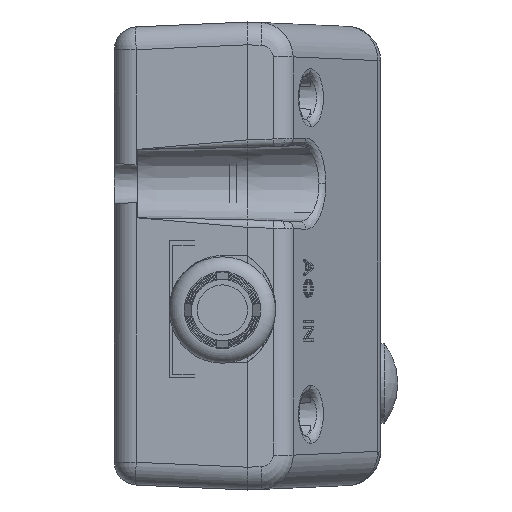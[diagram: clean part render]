
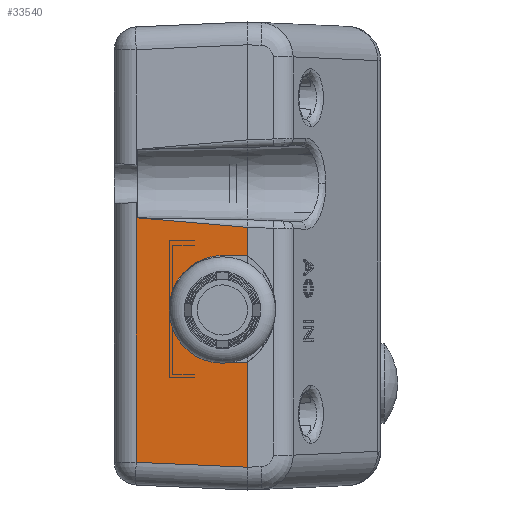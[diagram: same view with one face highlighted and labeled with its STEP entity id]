
A CAD part, left-side view. The second image highlights one B-rep face of the part: STEP entity #33540.
In plain terms, the highlighted planar face has unit normal (-0.999, 0.044, 0) as drawn and (0.999, 0.044, 0) by its records, which use the part's own axes.
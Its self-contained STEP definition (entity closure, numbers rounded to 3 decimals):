
#7997=CARTESIAN_POINT('',(90.264,0.,13.948));
#7998=VERTEX_POINT('',#7997);
#8006=CARTESIAN_POINT('',(90.264,0.,27.767));
#8007=VERTEX_POINT('',#8006);
#8008=CARTESIAN_POINT('',(90.264,0.,13.948));
#8009=DIRECTION('',(0.0,0.0,1.0));
#8010=VECTOR('',#8009,13.819);
#8011=LINE('',#8008,#8010);
#8012=EDGE_CURVE('',#7998,#8007,#8011,.T.);
#8098=CARTESIAN_POINT('',(90.264,-0.001,-0.052));
#8099=VERTEX_POINT('',#8098);
#8209=CARTESIAN_POINT('',(90.264,0.,-3.764));
#8210=VERTEX_POINT('',#8209);
#12448=CARTESIAN_POINT('',(89.625,14.631,27.129));
#12449=VERTEX_POINT('',#12448);
#16128=CARTESIAN_POINT('',(90.264,0.,-0.052));
#16129=DIRECTION('',(0.0,0.0,-1.0));
#16130=VECTOR('',#16129,3.712);
#16131=LINE('',#16128,#16130);
#16132=EDGE_CURVE('',#8099,#8210,#16131,.T.);
#27965=CARTESIAN_POINT('',(90.12,3.3,-0.052));
#27966=VERTEX_POINT('',#27965);
#27967=CARTESIAN_POINT('',(90.12,3.3,-0.052));
#27968=DIRECTION('',(0.044,-0.999,0.));
#27969=VECTOR('',#27968,3.304);
#27970=LINE('',#27967,#27969);
#27971=EDGE_CURVE('',#27966,#8099,#27970,.T.);
#28820=CARTESIAN_POINT('',(90.12,3.3,13.948));
#28821=VERTEX_POINT('',#28820);
#28822=CARTESIAN_POINT('',(90.12,3.3,6.948));
#28823=DIRECTION('',(-0.999,-0.044,0.));
#28824=DIRECTION('',(0.044,-0.999,0.0));
#28825=AXIS2_PLACEMENT_3D('',#28822,#28823,#28824);
#28826=ELLIPSE('',#28825,7.007,7.);
#28827=EDGE_CURVE('',#28821,#27966,#28826,.T.);
#31449=CARTESIAN_POINT('',(89.625,14.631,-7.011));
#31450=VERTEX_POINT('',#31449);
#31451=CARTESIAN_POINT('',(89.625,14.631,-7.011));
#31452=DIRECTION('',(0.0,0.0,1.0));
#31453=VECTOR('',#31452,34.14);
#31454=LINE('',#31451,#31453);
#31455=EDGE_CURVE('',#31450,#12449,#31454,.T.);
#31481=CARTESIAN_POINT('',(89.631,14.5,-7.017));
#31482=VERTEX_POINT('',#31481);
#31483=CARTESIAN_POINT('',(89.631,14.5,-7.017));
#31484=DIRECTION('',(-0.044,0.998,0.044));
#31485=VECTOR('',#31484,0.131);
#31486=LINE('',#31483,#31485);
#31487=EDGE_CURVE('',#31482,#31450,#31486,.T.);
#31653=CARTESIAN_POINT('',(89.631,14.5,-5.017));
#31654=VERTEX_POINT('',#31653);
#31661=CARTESIAN_POINT('',(90.264,0.,-3.762));
#31662=DIRECTION('',(-0.043,0.995,-0.086));
#31663=VECTOR('',#31662,14.568);
#31664=LINE('',#31661,#31663);
#31665=EDGE_CURVE('',#8210,#31654,#31664,.T.);
#31710=CARTESIAN_POINT('',(89.631,14.5,-5.017));
#31711=DIRECTION('',(0.0,0.0,-1.0));
#31712=VECTOR('',#31711,2.0);
#31713=LINE('',#31710,#31712);
#31714=EDGE_CURVE('',#31654,#31482,#31713,.T.);
#33513=CARTESIAN_POINT('',(90.277,-0.293,-7.517));
#33514=DIRECTION('',(0.999,0.044,0.));
#33515=DIRECTION('',(0.0,0.0,-1.0));
#33516=AXIS2_PLACEMENT_3D('',#33513,#33514,#33515);
#33517=PLANE('',#33516);
#33518=ORIENTED_EDGE('',*,*,#31665,.T.);
#33519=ORIENTED_EDGE('',*,*,#31714,.T.);
#33520=ORIENTED_EDGE('',*,*,#31487,.T.);
#33521=ORIENTED_EDGE('',*,*,#31455,.T.);
#33522=CARTESIAN_POINT('',(89.625,14.631,27.129));
#33523=DIRECTION('',(0.044,-0.998,0.044));
#33524=VECTOR('',#33523,14.659);
#33525=LINE('',#33522,#33524);
#33526=EDGE_CURVE('',#12449,#8007,#33525,.T.);
#33527=ORIENTED_EDGE('',*,*,#33526,.T.);
#33528=ORIENTED_EDGE('',*,*,#8012,.F.);
#33529=CARTESIAN_POINT('',(90.12,3.3,13.948));
#33530=DIRECTION('',(0.044,-0.999,0.0));
#33531=VECTOR('',#33530,3.303);
#33532=LINE('',#33529,#33531);
#33533=EDGE_CURVE('',#28821,#7998,#33532,.T.);
#33534=ORIENTED_EDGE('',*,*,#33533,.F.);
#33535=ORIENTED_EDGE('',*,*,#28827,.T.);
#33536=ORIENTED_EDGE('',*,*,#27971,.T.);
#33537=ORIENTED_EDGE('',*,*,#16132,.T.);
#33538=EDGE_LOOP('',(#33518,#33519,#33520,#33521,#33527,#33528,#33534,#33535,#33536,#33537));
#33539=FACE_OUTER_BOUND('',#33538,.T.);
#33540=ADVANCED_FACE('',(#33539),#33517,.T.);
